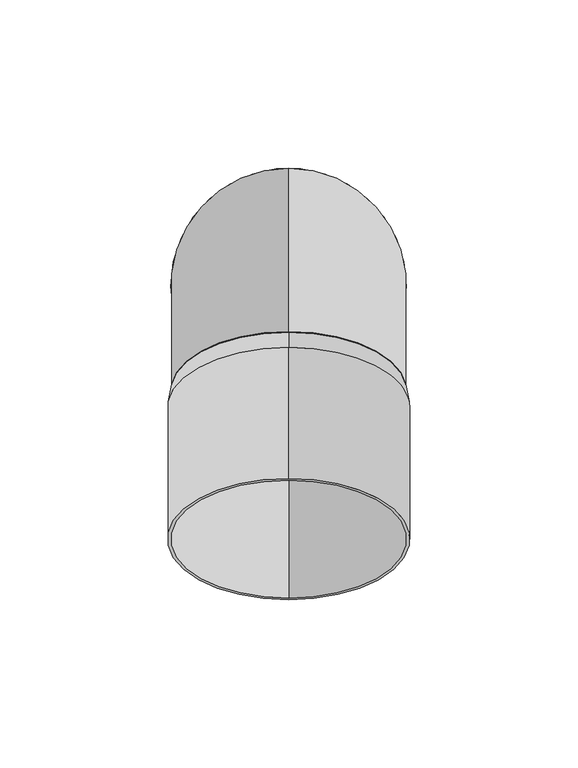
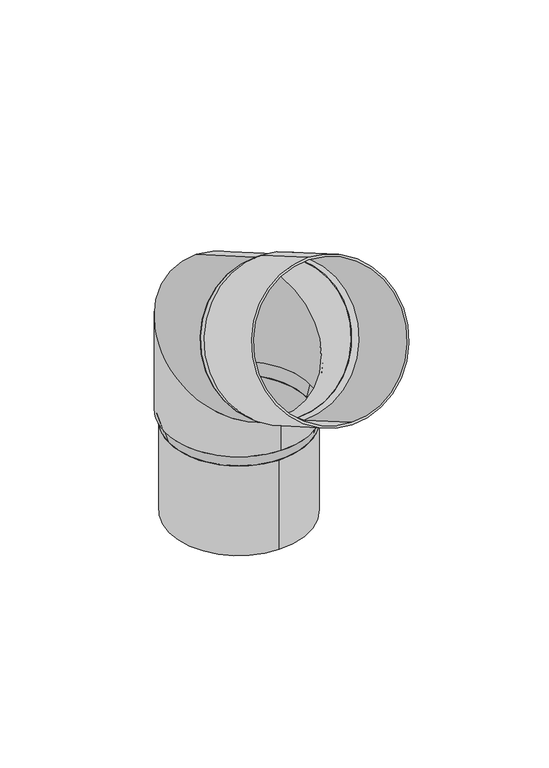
"""IFC4 building model written with IfcOpenShell, lengths in millimetres: proxy geometry, GROVIK_Downpipe_Knee : N70_60°_Up."""

from ifc_helpers import new_model, si_unit, point, frame, origin, origin_with_axes, origin_2d, place, context, project, spatial, polyline, circle_curve, ellipse_curve, trimmed, segment, composite_curve, outline, extrude, source, transform, mapped, element, save
from ifc_brep_helpers import plane_surface, cylinder_surface, revolved_surface, advanced_brep


def generic_models_a5105ce7(model_context):
    return source(origin(), model_context, "Body", "SolidModel", [
        extrude(outline(composite_curve([segment(trimmed(circle_curve(origin_2d(), 33.2), [point((0.0, 33.2))], [point((0.0, -33.2))], False, "CARTESIAN"), True, "CONTINUOUS"), segment(trimmed(circle_curve(origin_2d(), 33.2), [point((0.0, -33.2))], [point((0.0, 33.2))], False, "CARTESIAN"), True, "CONTINUOUS")], self_intersect=False), holes=[composite_curve([segment(trimmed(circle_curve(origin_2d(), 32.2), [point((0.0, 32.2))], [point((0.0, -32.2))], True, "CARTESIAN"), True, "CONTINUOUS"), segment(trimmed(circle_curve(origin_2d(), 32.2), [point((0.0, -32.2))], [point((0.0, 32.2))], True, "CARTESIAN"), True, "CONTINUOUS")], self_intersect=False)]), frame((0.0, 0.0, -51.0), z_axis=(0.0, 0.0, 1.0), x_axis=(1.0, 0.0, 0.0)), (0.0, 0.0, 1.0), 45.0),
        advanced_brep(
        [(0.0, 35.0, 0.0), (0.0, -35.0, 0.0), (0.0, 34.0, 0.0), (0.0, -34.0, 0.0), (0.0, 34.0, 55.5299092), (0.0, -34.0, 16.2700908), (0.0, 35.0, 56.1072594), (0.0, -35.0, 15.6927406), (0.0, -13.590312, 84.1608891), (0.0, -48.590312, 23.5391109), (0.0, -14.090312, 83.2948637), (0.0, -48.090312, 24.4051363)],
        [
            (0, 1, circle_curve(frame((0.0, 0.0, 0.0), z_axis=(0.0, 0.0, -1.0), x_axis=(0.0, -1.0, 0.0)), 35.0)),
            (1, 0, circle_curve(frame((0.0, 0.0, 0.0), z_axis=(0.0, 0.0, -1.0), x_axis=(0.0, -1.0, 0.0)), 35.0)),
            (2, 3, circle_curve(frame((0.0, 0.0, 0.0), z_axis=(0.0, 0.0, 1.0), x_axis=(0.0, -1.0, 0.0)), 34.0)),
            (3, 2, circle_curve(frame((0.0, 0.0, 0.0), z_axis=(0.0, 0.0, 1.0), x_axis=(0.0, -1.0, 0.0)), 34.0)),
            (2, 4),
            (4, 5, ellipse_curve(frame((0.0, 0.0, 35.9), z_axis=(0.0, -0.5000000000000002, 0.8660254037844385), x_axis=(0.0, 0.8660254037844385, 0.5000000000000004)), 39.2598183, 34.0)),
            (5, 3),
            (5, 4, ellipse_curve(frame((0.0, 0.0, 35.9), z_axis=(0.0, -0.5000000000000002, 0.8660254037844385), x_axis=(0.0, 0.8660254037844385, 0.5000000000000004)), 39.2598183, 34.0)),
            (0, 6),
            (6, 7, ellipse_curve(frame((0.0, 0.0, 35.9), z_axis=(0.0, 0.5000000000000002, -0.8660254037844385), x_axis=(0.0, -0.8660254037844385, -0.5000000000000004)), 40.4145188, 35.0)),
            (7, 1),
            (7, 6, ellipse_curve(frame((0.0, 0.0, 35.9), z_axis=(0.0, 0.5000000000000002, -0.8660254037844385), x_axis=(0.0, -0.8660254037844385, -0.5000000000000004)), 40.4145188, 35.0)),
            (8, 9, circle_curve(frame((0.0, -31.090312, 53.85), z_axis=(0.0, -0.8660254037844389, 0.49999999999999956), x_axis=(0.0, -0.49999999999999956, -0.8660254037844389)), 35.0)),
            (9, 8, circle_curve(frame((0.0, -31.090312, 53.85), z_axis=(0.0, -0.8660254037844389, 0.49999999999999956), x_axis=(0.0, -0.49999999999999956, -0.8660254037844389)), 35.0)),
            (10, 11, circle_curve(frame((0.0, -31.090312, 53.85), z_axis=(0.0, 0.8660254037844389, -0.49999999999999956), x_axis=(0.0, -0.49999999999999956, -0.8660254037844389)), 34.0)),
            (11, 10, circle_curve(frame((0.0, -31.090312, 53.85), z_axis=(0.0, 0.8660254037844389, -0.49999999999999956), x_axis=(0.0, -0.49999999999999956, -0.8660254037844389)), 34.0)),
            (4, 10),
            (11, 5),
            (6, 8),
            (9, 7),
        ],
        [
            plane_surface(frame((0.0, 0.0, 0.0), z_axis=(0.0, 0.0, -1.0), x_axis=(1.0, 0.0, 0.0))),
            revolved_surface(polyline([(0.0, -34.0, 55.5299092), (0.0, -34.0, 0.0)]), (0.0, 0.0, 0.0), (0.0, 0.0, 1.0)),
            cylinder_surface(frame((0.0, 0.0, 0.0), z_axis=(0.0, 0.0, -1.0), x_axis=(0.0, -1.0, 0.0)), 35.0),
            plane_surface(frame((0.0, -31.090312, 53.85), z_axis=(0.0, -0.8660254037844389, 0.49999999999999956), x_axis=(1.0, 0.0, 0.0))),
            revolved_surface(polyline([(0.0, -48.09031201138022, 24.405136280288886), (0.0, -2.1193820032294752e-09, -3.3598183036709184)]), (0.0, 0.0, 35.9), (0.0, -0.8660254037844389, 0.49999999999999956)),
            cylinder_surface(frame((0.0, 0.0, 35.9), z_axis=(0.0, 0.8660254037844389, -0.49999999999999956), x_axis=(0.0, -0.49999999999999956, -0.8660254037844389)), 35.0),
        ],
        [
            (0, [[1, 2], [3, 4]]),
            (1, [[-3, 5, 6, 7]]),
            (1, [[-4, -7, 8, -5]]),
            (2, [[-1, 9, 10, 11]]),
            (2, [[-2, -11, 12, -9]]),
            (3, [[13, 14], [15, 16]]),
            (4, [[-6, 17, -16, 18]]),
            (4, [[-8, -18, -15, -17]]),
            (5, [[-10, 19, -14, 20]]),
            (5, [[-12, -20, -13, -19]]),
        ],
    ),
        advanced_brep(
        [(-33.2, 0.0, -6.0), (33.2, 0.0, -6.0), (-32.2, 0.0, -6.0), (32.2, 0.0, -6.0), (-35.0, 0.0, 0.0), (35.0, 0.0, 0.0), (34.0, 0.0, 0.0), (-34.0, 0.0, 0.0)],
        [
            (0, 1, circle_curve(frame((0.0, 0.0, -6.0), z_axis=(0.0, 0.0, -1.0), x_axis=(-1.0, 0.0, 0.0)), 33.2)),
            (1, 0, circle_curve(frame((0.0, 0.0, -6.0), z_axis=(0.0, 0.0, -1.0), x_axis=(1.0, 0.0, 0.0)), 33.2)),
            (2, 3, circle_curve(frame((0.0, 0.0, -6.0), z_axis=(0.0, 0.0, 1.0), x_axis=(1.0, 0.0, 0.0)), 32.2)),
            (3, 2, circle_curve(frame((0.0, 0.0, -6.0), z_axis=(0.0, 0.0, 1.0), x_axis=(-1.0, 0.0, 0.0)), 32.2)),
            (4, 5, circle_curve(origin_with_axes(), 35.0)),
            (5, 4, circle_curve(frame((0.0, 0.0, 0.0), z_axis=(0.0, 0.0, 1.0), x_axis=(-1.0, 0.0, 0.0)), 35.0)),
            (6, 7, circle_curve(frame((0.0, 0.0, 0.0), z_axis=(0.0, 0.0, -1.0), x_axis=(1.0, 0.0, 0.0)), 34.0)),
            (7, 6, circle_curve(frame((0.0, 0.0, 0.0), z_axis=(0.0, 0.0, -1.0), x_axis=(-1.0, 0.0, 0.0)), 34.0)),
            (1, 5),
            (4, 0),
            (6, 3),
            (2, 7),
        ],
        [
            plane_surface(frame((0.0, 0.0, -6.0), z_axis=(0.0, 0.0, -1.0), x_axis=(0.0, 1.0, 0.0))),
            plane_surface(frame((0.0, 0.0, 0.0), z_axis=(0.0, 0.0, 1.0), x_axis=(0.0, 1.0, 0.0))),
            revolved_surface(polyline([(33.20000000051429, 0.0, -6.0), (35.0, 0.0, 0.0)]), (0.0, 0.0, -116.6666667), (0.0, 0.0, 1.0)),
            revolved_surface(polyline([(-33.20000000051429, 0.0, -6.0), (-35.0, 0.0, 0.0)]), (0.0, 0.0, -116.6666667), (0.0, 0.0, 1.0)),
            revolved_surface(polyline([(34.0, 0.0, 0.0), (32.19999999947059, 0.0, -6.0)]), (0.0, 0.0, -113.3333333), (0.0, 0.0, 1.0)),
        ],
        [
            (0, [[1, 2], [3, 4]]),
            (1, [[5, 6], [7, 8]]),
            (2, [[-2, 9, -5, 10]]),
            (3, [[-1, -10, -6, -9]]),
            (4, [[11, -3, 12, -7]]),
            (4, [[-11, -8, -12, -4]]),
        ],
    ),
        extrude(outline(composite_curve([segment(trimmed(circle_curve(origin_2d(), 36.0), [point((0.0, -36.0))], [point((0.0, 36.0))], False, "CARTESIAN"), True, "CONTINUOUS"), segment(trimmed(circle_curve(origin_2d(), 36.0), [point((0.0, 36.0))], [point((0.0, -36.0))], False, "CARTESIAN"), True, "CONTINUOUS")], self_intersect=False), holes=[composite_curve([segment(trimmed(circle_curve(origin_2d(), 35.0), [point((0.0, -35.0))], [point((0.0, 35.0))], True, "CARTESIAN"), True, "CONTINUOUS"), segment(trimmed(circle_curve(origin_2d(), 35.0), [point((0.0, 35.0))], [point((0.0, -35.0))], True, "CARTESIAN"), True, "CONTINUOUS")], self_intersect=False)]), frame((0.0, -36.2864644, 56.85), z_axis=(0.0, -0.8660254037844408, 0.4999999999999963), x_axis=(1.0, 0.0, 0.0)), (0.0, 0.0, 1.0), 45.0),
        advanced_brep(
        [(0.0, -48.590312, 23.5391109), (0.0, -13.590312, 84.1608891), (0.0, -14.090312, 83.2948637), (0.0, -48.090312, 24.4051363), (0.0, -54.2864644, 25.6730855), (0.0, -18.2864644, 88.0269145), (0.0, -53.7864644, 26.5391109), (0.0, -18.7864644, 87.1608891)],
        [
            (0, 1, circle_curve(frame((0.0, -31.090312, 53.85), z_axis=(0.0, 0.8660254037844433, -0.49999999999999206), x_axis=(0.0, -0.49999999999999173, -0.8660254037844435)), 35.0)),
            (1, 0, circle_curve(frame((0.0, -31.090312, 53.85), z_axis=(0.0, 0.8660254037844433, -0.49999999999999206), x_axis=(0.0, 0.49999999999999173, 0.8660254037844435)), 35.0)),
            (2, 3, circle_curve(frame((0.0, -31.090312, 53.85), z_axis=(0.0, -0.8660254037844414, 0.49999999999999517), x_axis=(0.0, -0.49999999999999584, -0.8660254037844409)), 34.0)),
            (3, 2, circle_curve(frame((0.0, -31.090312, 53.85), z_axis=(0.0, -0.8660254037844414, 0.49999999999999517), x_axis=(0.0, 0.4999999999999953, 0.8660254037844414)), 34.0)),
            (4, 5, circle_curve(frame((0.0, -36.2864644, 56.85), z_axis=(0.0, -0.8660254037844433, 0.49999999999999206), x_axis=(0.0, 0.49999999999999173, 0.8660254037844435)), 36.0)),
            (5, 4, circle_curve(frame((0.0, -36.2864644, 56.85), z_axis=(0.0, -0.8660254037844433, 0.49999999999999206), x_axis=(0.0, -0.49999999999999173, -0.8660254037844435)), 36.0)),
            (6, 7, circle_curve(frame((0.0, -36.2864644, 56.85), z_axis=(0.0, 0.8660254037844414, -0.49999999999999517), x_axis=(0.0, -0.49999999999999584, -0.8660254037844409)), 35.0)),
            (7, 6, circle_curve(frame((0.0, -36.2864644, 56.85), z_axis=(0.0, 0.8660254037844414, -0.49999999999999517), x_axis=(0.0, 0.4999999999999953, 0.8660254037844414)), 35.0)),
            (0, 4),
            (5, 1),
            (6, 3),
            (2, 7),
        ],
        [
            plane_surface(frame((0.0, -31.090312, 53.85), z_axis=(0.0, 0.8660254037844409, -0.49999999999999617), x_axis=(-1.0, 0.0, 0.0))),
            plane_surface(frame((0.0, -36.2864644, 56.85), z_axis=(0.0, -0.8660254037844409, 0.49999999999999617), x_axis=(-1.0, 0.0, 0.0))),
            revolved_surface(polyline([(0.0, -48.59031196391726, 23.53911089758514), (0.0, -54.2864644, 25.673085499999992)]), (0.0, 150.7750228, -51.15), (0.0, -0.8660254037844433, 0.49999999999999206)),
            revolved_surface(polyline([(0.0, -13.590311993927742, 84.16088911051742), (0.0, -18.286464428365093, 88.02691452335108)]), (0.0, 150.7750228, -51.15), (0.0, -0.8660254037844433, 0.49999999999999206)),
            revolved_surface(polyline([(0.0, -53.7864644, 26.539110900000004), (0.0, -48.090311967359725, 24.405136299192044)]), (0.0, 145.5788704, -48.15), (0.0, -0.8660254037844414, 0.49999999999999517)),
        ],
        [
            (0, [[1, 2], [3, 4]]),
            (1, [[5, 6], [7, 8]]),
            (2, [[-1, 9, -6, 10]]),
            (3, [[-2, -10, -5, -9]]),
            (4, [[11, -3, 12, -7]]),
            (4, [[-11, -8, -12, -4]]),
        ],
    ),
    ])


if __name__ == "__main__":
    model = new_model("IFC4")
    model_context = context("Model", 3, world=origin())
    ifc_project = project(units=[si_unit("LENGTHUNIT", "METRE", prefix="MILLI")], contexts=[model_context])
    site = spatial("IfcSite", under=ifc_project)
    building = spatial("IfcBuilding", under=site)
    placement = place(None, origin())
    generic_models_shape = generic_models_a5105ce7(model_context)
    element("IfcBuildingElementProxy", 1, Name="GROVIK_Downpipe_Knee : N70_60°_Up", ObjectType="GROVIK_Downpipe_Knee : N70_60°_Up", at=placement, inside=building, context=model_context, shape_type="MappedRepresentation", body=[
        mapped(generic_models_shape, transform((0.0, 0.0, 0.0), x_axis=(1.0, 0.0, 0.0), y_axis=(0.0, 1.0, 0.0), z_axis=(0.0, 0.0, 1.0))),
    ])
    save(model, "model.ifc")
